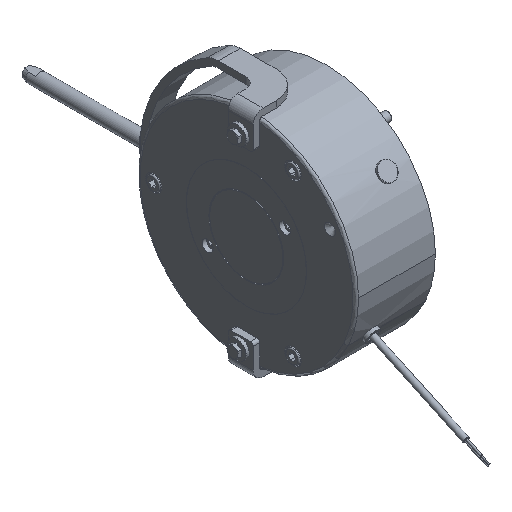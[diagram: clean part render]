
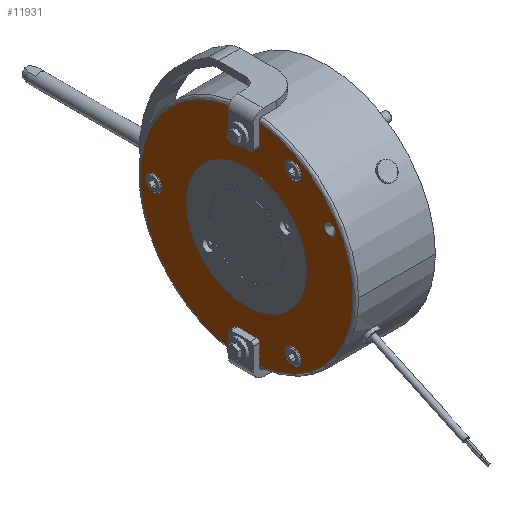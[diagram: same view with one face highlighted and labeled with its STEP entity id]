
A CAD part, isometric view. The second image highlights one B-rep face of the part: STEP entity #11931.
In plain terms, the highlighted planar face has unit normal (-1, 0, 0).
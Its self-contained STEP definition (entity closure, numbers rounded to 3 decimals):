
#339=PLANE('',#12804);
#477=FACE_BOUND('',#1425,.T.);
#478=FACE_BOUND('',#1426,.T.);
#479=FACE_BOUND('',#1427,.T.);
#480=FACE_BOUND('',#1428,.T.);
#481=FACE_BOUND('',#1429,.T.);
#729=FACE_OUTER_BOUND('',#1424,.T.);
#1424=EDGE_LOOP('',(#8054,#8055,#8056,#8057,#8058,#8059,#8060,#8061,#8062,
#8063,#8064,#8065));
#1425=EDGE_LOOP('',(#8066,#8067));
#1426=EDGE_LOOP('',(#8068,#8069));
#1427=EDGE_LOOP('',(#8070,#8071));
#1428=EDGE_LOOP('',(#8072,#8073));
#1429=EDGE_LOOP('',(#8074,#8075));
#2344=CIRCLE('',#12685,2.5);
#2345=CIRCLE('',#12688,2.5);
#2348=CIRCLE('',#12693,2.5);
#2350=CIRCLE('',#12697,2.5);
#2405=CIRCLE('',#12805,97.5);
#2406=CIRCLE('',#12806,97.5);
#2407=CIRCLE('',#12807,7.5);
#2408=CIRCLE('',#12808,7.5);
#2409=CIRCLE('',#12809,7.5);
#2410=CIRCLE('',#12810,7.5);
#2411=CIRCLE('',#12811,7.5);
#2412=CIRCLE('',#12812,7.5);
#2413=CIRCLE('',#12813,55.);
#2414=CIRCLE('',#12814,55.);
#2415=CIRCLE('',#12815,5.);
#2416=CIRCLE('',#12816,5.);
#3217=LINE('',#18514,#3823);
#3220=LINE('',#18521,#3826);
#3226=LINE('',#18542,#3832);
#3230=LINE('',#18553,#3836);
#3248=LINE('',#18602,#3854);
#3257=LINE('',#18629,#3863);
#3823=VECTOR('',#14600,10.);
#3826=VECTOR('',#14609,10.);
#3832=VECTOR('',#14627,10.);
#3836=VECTOR('',#14639,10.);
#3854=VECTOR('',#14685,10.);
#3863=VECTOR('',#14714,10.);
#4487=VERTEX_POINT('',#18461);
#4490=VERTEX_POINT('',#18468);
#4494=VERTEX_POINT('',#18479);
#4497=VERTEX_POINT('',#18486);
#4506=VERTEX_POINT('',#18507);
#4507=VERTEX_POINT('',#18508);
#4508=VERTEX_POINT('',#18513);
#4509=VERTEX_POINT('',#18517);
#4514=VERTEX_POINT('',#18532);
#4515=VERTEX_POINT('',#18533);
#4518=VERTEX_POINT('',#18541);
#4520=VERTEX_POINT('',#18547);
#4597=VERTEX_POINT('',#18831);
#4598=VERTEX_POINT('',#18832);
#4599=VERTEX_POINT('',#18835);
#4600=VERTEX_POINT('',#18836);
#4601=VERTEX_POINT('',#18839);
#4602=VERTEX_POINT('',#18840);
#4603=VERTEX_POINT('',#18843);
#4604=VERTEX_POINT('',#18844);
#4605=VERTEX_POINT('',#18847);
#4606=VERTEX_POINT('',#18848);
#5778=EDGE_CURVE('',#4506,#4507,#2344,.T.);
#5781=EDGE_CURVE('',#4508,#4506,#3217,.T.);
#5783=EDGE_CURVE('',#4509,#4508,#2345,.T.);
#5785=EDGE_CURVE('',#4490,#4509,#3220,.T.);
#5791=EDGE_CURVE('',#4514,#4515,#2348,.T.);
#5795=EDGE_CURVE('',#4518,#4514,#3226,.T.);
#5798=EDGE_CURVE('',#4520,#4518,#2350,.T.);
#5801=EDGE_CURVE('',#4497,#4520,#3230,.T.);
#5827=EDGE_CURVE('',#4515,#4494,#3248,.T.);
#5841=EDGE_CURVE('',#4507,#4487,#3257,.T.);
#5926=EDGE_CURVE('',#4497,#4487,#2405,.T.);
#5927=EDGE_CURVE('',#4490,#4494,#2406,.T.);
#5928=EDGE_CURVE('',#4597,#4598,#2407,.T.);
#5929=EDGE_CURVE('',#4598,#4597,#2408,.T.);
#5930=EDGE_CURVE('',#4599,#4600,#2409,.T.);
#5931=EDGE_CURVE('',#4600,#4599,#2410,.T.);
#5932=EDGE_CURVE('',#4601,#4602,#2411,.T.);
#5933=EDGE_CURVE('',#4602,#4601,#2412,.T.);
#5934=EDGE_CURVE('',#4603,#4604,#2413,.T.);
#5935=EDGE_CURVE('',#4604,#4603,#2414,.T.);
#5936=EDGE_CURVE('',#4605,#4606,#2415,.T.);
#5937=EDGE_CURVE('',#4606,#4605,#2416,.T.);
#8054=ORIENTED_EDGE('',*,*,#5785,.T.);
#8055=ORIENTED_EDGE('',*,*,#5783,.T.);
#8056=ORIENTED_EDGE('',*,*,#5781,.T.);
#8057=ORIENTED_EDGE('',*,*,#5778,.T.);
#8058=ORIENTED_EDGE('',*,*,#5841,.T.);
#8059=ORIENTED_EDGE('',*,*,#5926,.F.);
#8060=ORIENTED_EDGE('',*,*,#5801,.T.);
#8061=ORIENTED_EDGE('',*,*,#5798,.T.);
#8062=ORIENTED_EDGE('',*,*,#5795,.T.);
#8063=ORIENTED_EDGE('',*,*,#5791,.T.);
#8064=ORIENTED_EDGE('',*,*,#5827,.T.);
#8065=ORIENTED_EDGE('',*,*,#5927,.F.);
#8066=ORIENTED_EDGE('',*,*,#5928,.T.);
#8067=ORIENTED_EDGE('',*,*,#5929,.T.);
#8068=ORIENTED_EDGE('',*,*,#5930,.T.);
#8069=ORIENTED_EDGE('',*,*,#5931,.T.);
#8070=ORIENTED_EDGE('',*,*,#5932,.T.);
#8071=ORIENTED_EDGE('',*,*,#5933,.T.);
#8072=ORIENTED_EDGE('',*,*,#5934,.T.);
#8073=ORIENTED_EDGE('',*,*,#5935,.T.);
#8074=ORIENTED_EDGE('',*,*,#5936,.T.);
#8075=ORIENTED_EDGE('',*,*,#5937,.T.);
#11931=ADVANCED_FACE('',(#729,#477,#478,#479,#480,#481),#339,.T.);
#12685=AXIS2_PLACEMENT_3D('',#18509,#14594,#14595);
#12688=AXIS2_PLACEMENT_3D('',#18518,#14604,#14605);
#12693=AXIS2_PLACEMENT_3D('',#18534,#14619,#14620);
#12697=AXIS2_PLACEMENT_3D('',#18548,#14632,#14633);
#12804=AXIS2_PLACEMENT_3D('',#18828,#14907,#14908);
#12805=AXIS2_PLACEMENT_3D('',#18829,#14909,#14910);
#12806=AXIS2_PLACEMENT_3D('',#18830,#14911,#14912);
#12807=AXIS2_PLACEMENT_3D('',#18833,#14913,#14914);
#12808=AXIS2_PLACEMENT_3D('',#18834,#14915,#14916);
#12809=AXIS2_PLACEMENT_3D('',#18837,#14917,#14918);
#12810=AXIS2_PLACEMENT_3D('',#18838,#14919,#14920);
#12811=AXIS2_PLACEMENT_3D('',#18841,#14921,#14922);
#12812=AXIS2_PLACEMENT_3D('',#18842,#14923,#14924);
#12813=AXIS2_PLACEMENT_3D('',#18845,#14925,#14926);
#12814=AXIS2_PLACEMENT_3D('',#18846,#14927,#14928);
#12815=AXIS2_PLACEMENT_3D('',#18849,#14929,#14930);
#12816=AXIS2_PLACEMENT_3D('',#18850,#14931,#14932);
#14594=DIRECTION('center_axis',(1.,0.,0.));
#14595=DIRECTION('ref_axis',(0.,0.707,-0.707));
#14600=DIRECTION('',(0.,1.,0.));
#14604=DIRECTION('center_axis',(1.,0.,0.));
#14605=DIRECTION('ref_axis',(0.,-0.707,-0.707));
#14609=DIRECTION('',(0.,0.,-1.));
#14619=DIRECTION('center_axis',(1.,0.,0.));
#14620=DIRECTION('ref_axis',(0.,-0.707,0.707));
#14627=DIRECTION('',(0.,-1.,0.));
#14632=DIRECTION('center_axis',(1.,0.,0.));
#14633=DIRECTION('ref_axis',(0.,0.707,0.707));
#14639=DIRECTION('',(0.,0.,1.));
#14685=DIRECTION('',(0.,0.,-1.));
#14714=DIRECTION('',(0.,0.,1.));
#14907=DIRECTION('center_axis',(-1.,0.,0.));
#14908=DIRECTION('ref_axis',(0.,0.,1.));
#14909=DIRECTION('center_axis',(1.,0.,0.));
#14910=DIRECTION('ref_axis',(0.,-1.,0.));
#14911=DIRECTION('center_axis',(1.,0.,0.));
#14912=DIRECTION('ref_axis',(0.,-1.,0.));
#14913=DIRECTION('center_axis',(1.,0.,0.));
#14914=DIRECTION('ref_axis',(0.,0.866,-0.5));
#14915=DIRECTION('center_axis',(1.,0.,0.));
#14916=DIRECTION('ref_axis',(0.,0.866,-0.5));
#14917=DIRECTION('center_axis',(1.,0.,0.));
#14918=DIRECTION('ref_axis',(0.,-0.866,-0.5));
#14919=DIRECTION('center_axis',(1.,0.,0.));
#14920=DIRECTION('ref_axis',(0.,-0.866,-0.5));
#14921=DIRECTION('center_axis',(1.,0.,0.));
#14922=DIRECTION('ref_axis',(0.,0.,1.));
#14923=DIRECTION('center_axis',(1.,0.,0.));
#14924=DIRECTION('ref_axis',(0.,0.,1.));
#14925=DIRECTION('center_axis',(1.,0.,0.));
#14926=DIRECTION('ref_axis',(0.,1.,0.));
#14927=DIRECTION('center_axis',(1.,0.,0.));
#14928=DIRECTION('ref_axis',(0.,1.,0.));
#14929=DIRECTION('center_axis',(1.,0.,0.));
#14930=DIRECTION('ref_axis',(0.,0.,1.));
#14931=DIRECTION('center_axis',(1.,0.,0.));
#14932=DIRECTION('ref_axis',(0.,0.,1.));
#18461=CARTESIAN_POINT('',(-72.8,11.,96.877));
#18468=CARTESIAN_POINT('',(-72.8,-12.,96.759));
#18479=CARTESIAN_POINT('',(-72.8,-12.,-96.759));
#18486=CARTESIAN_POINT('',(-72.8,11.,-96.877));
#18507=CARTESIAN_POINT('',(-72.8,8.5,75.5));
#18508=CARTESIAN_POINT('',(-72.8,11.,78.));
#18509=CARTESIAN_POINT('Origin',(-72.8,8.5,78.));
#18513=CARTESIAN_POINT('',(-72.8,-9.5,75.5));
#18514=CARTESIAN_POINT('',(-72.8,44.25,75.5));
#18517=CARTESIAN_POINT('',(-72.8,-12.,78.));
#18518=CARTESIAN_POINT('Origin',(-72.8,-9.5,78.));
#18521=CARTESIAN_POINT('',(-72.8,-12.,53.25));
#18532=CARTESIAN_POINT('',(-72.8,-9.5,-75.5));
#18533=CARTESIAN_POINT('',(-72.8,-12.,-78.));
#18534=CARTESIAN_POINT('Origin',(-72.8,-9.5,-78.));
#18541=CARTESIAN_POINT('',(-72.8,8.5,-75.5));
#18542=CARTESIAN_POINT('',(-72.8,32.75,-75.5));
#18547=CARTESIAN_POINT('',(-72.8,11.,-78.));
#18548=CARTESIAN_POINT('Origin',(-72.8,8.5,-78.));
#18553=CARTESIAN_POINT('',(-72.8,11.,-53.25));
#18602=CARTESIAN_POINT('',(-72.8,-12.,-50.25));
#18629=CARTESIAN_POINT('',(-72.8,11.,50.25));
#18828=CARTESIAN_POINT('Origin',(-72.8,77.5,0.));
#18829=CARTESIAN_POINT('Origin',(-72.8,0.,0.));
#18830=CARTESIAN_POINT('Origin',(-72.8,0.,0.));
#18831=CARTESIAN_POINT('',(-72.8,-36.005,-77.362));
#18832=CARTESIAN_POINT('',(-72.8,-48.995,-69.862));
#18833=CARTESIAN_POINT('Origin',(-72.8,-42.5,-73.612));
#18834=CARTESIAN_POINT('Origin',(-72.8,-42.5,-73.612));
#18835=CARTESIAN_POINT('',(-72.8,-48.995,69.862));
#18836=CARTESIAN_POINT('',(-72.8,-36.005,77.362));
#18837=CARTESIAN_POINT('Origin',(-72.8,-42.5,73.612));
#18838=CARTESIAN_POINT('Origin',(-72.8,-42.5,73.612));
#18839=CARTESIAN_POINT('',(-72.8,85.,7.5));
#18840=CARTESIAN_POINT('',(-72.8,85.,-7.5));
#18841=CARTESIAN_POINT('Origin',(-72.8,85.,0.));
#18842=CARTESIAN_POINT('Origin',(-72.8,85.,0.));
#18843=CARTESIAN_POINT('',(-72.8,55.,0.));
#18844=CARTESIAN_POINT('',(-72.8,-55.,0.));
#18845=CARTESIAN_POINT('Origin',(-72.8,0.,0.));
#18846=CARTESIAN_POINT('Origin',(-72.8,0.,0.));
#18847=CARTESIAN_POINT('',(-72.8,-76.21,49.));
#18848=CARTESIAN_POINT('',(-72.8,-76.21,39.));
#18849=CARTESIAN_POINT('Origin',(-72.8,-76.21,44.));
#18850=CARTESIAN_POINT('Origin',(-72.8,-76.21,44.));
